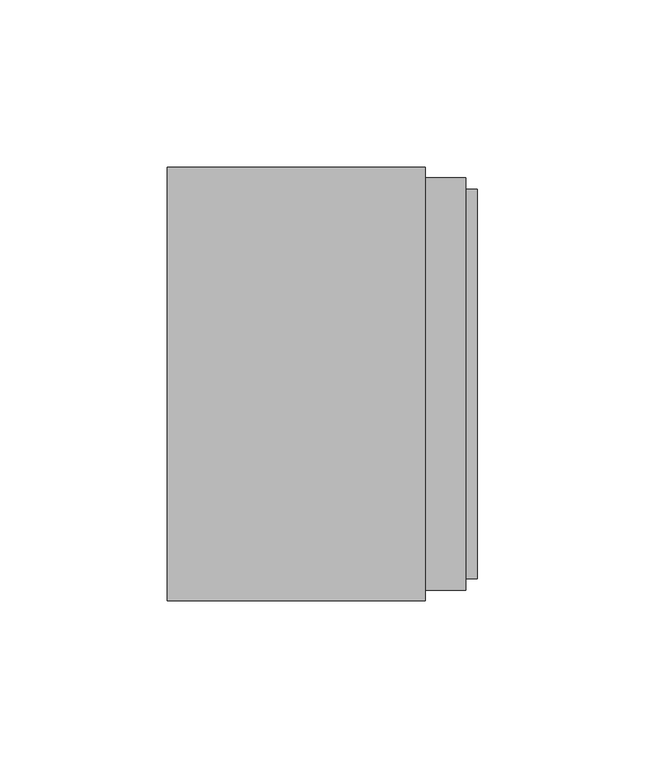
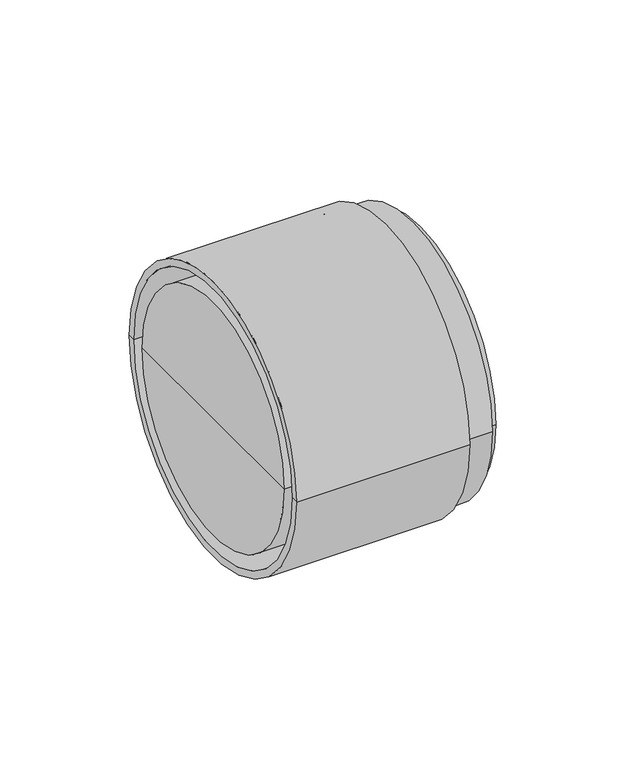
"""IFC4 building model written with IfcOpenShell, lengths in millimetres: pipe fitting geometry, pf_KGUSM : pf_KGUSM."""

import ifcopenshell
import ifcopenshell.guid

model = None  # the IFC model being written
_history = None  # IfcOwnerHistory: only IFC2X3 demands one
_inside = {}  # id of a spatial element -> (the spatial element, [elements in it])
_under = {}  # id of a project, library or spatial element -> (it, [spatial elements below it])
_declared = {}  # id of a project -> (the project, [libraries it declares])
_typed = {}  # id of a type object -> (the type object, [elements of that type])
_made_of = {}  # id of a material, layer set ... -> (it, [elements and type objects made of it])


def new_model(schema):
    """Start an empty IFC model of exactly this schema.

    Asked for "IFC4X3", IfcOpenShell would pick the latest addendum, in which some entities
    have other attributes; the version numbers below select the first issue.
    IFC2X3 requires an IfcOwnerHistory on every rooted entity: one is made here for all.
    """
    global model, _history
    if schema == "IFC4X3":
        model = ifcopenshell.file(schema_version=(4, 3, 0, 0))
    else:
        model = ifcopenshell.file(schema=schema)
    _inside.clear()
    _under.clear()
    _declared.clear()
    _typed.clear()
    _made_of.clear()
    _history = None
    if model.schema == "IFC2X3":
        org = make("IfcOrganization", Name="unknown")
        user = make(
            "IfcPersonAndOrganization",
            ThePerson=make("IfcPerson", FamilyName="unknown"),
            TheOrganization=org,
        )
        app = make(
            "IfcApplication",
            ApplicationDeveloper=org,
            Version="unknown",
            ApplicationFullName="unknown",
            ApplicationIdentifier="unknown",
        )
        _history = make(
            "IfcOwnerHistory",
            OwningUser=user,
            OwningApplication=app,
            ChangeAction="ADDED",
            CreationDate=0,
        )
    return model


def make(cls, **values):
    """One entity of the class cls with the attributes given. An attribute that is None is left unset."""
    return model.create_entity(
        cls, **{name: value for name, value in values.items() if value is not None}
    )


def rooted(cls, **values):
    """An entity with a GlobalId (a new one), such as an element, a storey or a relation."""
    return make(cls, GlobalId=ifcopenshell.guid.new(), OwnerHistory=_history, **values)


def si_unit(unit_type, name, prefix=None):
    """IfcSIUnit, for example si_unit("LENGTHUNIT", "METRE", prefix="MILLI")."""
    return make("IfcSIUnit", UnitType=unit_type, Prefix=prefix, Name=name)


def assignment(units):
    """IfcUnitAssignment: the units of a project."""
    return None if units is None else make("IfcUnitAssignment", Units=units)


def point(xyz):
    """IfcCartesianPoint."""
    return None if xyz is None else make("IfcCartesianPoint", Coordinates=xyz)


def direction(xyz):
    """IfcDirection."""
    return None if xyz is None else make("IfcDirection", DirectionRatios=xyz)


def frame(location, z_axis=None, x_axis=None):
    """IfcAxis2Placement3D, a coordinate frame: its origin and axes. An axis left out is left unset."""
    return make(
        "IfcAxis2Placement3D",
        Location=point(location),
        Axis=direction(z_axis),
        RefDirection=direction(x_axis),
    )


def origin():
    """The frame at (0, 0, 0) with its axes left unset."""
    return frame((0.0, 0.0, 0.0))


def place(relative_to, where):
    """IfcLocalPlacement: puts the frame where relative to a parent placement (None: the world)."""
    return make(
        "IfcLocalPlacement", PlacementRelTo=relative_to, RelativePlacement=where
    )


def context(
    kind, dimensions, precision=None, world=None, true_north=None, identifier=None
):
    """IfcGeometricRepresentationContext, for example the 3D "Model" context."""
    return make(
        "IfcGeometricRepresentationContext",
        ContextIdentifier=identifier,
        ContextType=kind,
        CoordinateSpaceDimension=dimensions,
        Precision=precision,
        WorldCoordinateSystem=world,
        TrueNorth=true_north,
    )


def project(units=None, contexts=None):
    """IfcProject with its units and contexts."""
    return rooted(
        "IfcProject",
        Name="project",
        RepresentationContexts=contexts,
        UnitsInContext=assignment(units),
    )


def spatial(cls, under=None, at=None, **own):
    """A site, building, storey or space (cls), placed at a placement, below another one or the project."""
    s = rooted(cls, ObjectPlacement=at, **own)
    if under is not None:
        _under.setdefault(under.id(), (under, []))[1].append(s)
    return s


def polyline(points):
    """IfcPolyline through the points."""
    return make("IfcPolyline", Points=[point(p) for p in points])


def circle_curve(where, radius):
    """IfcCircle in the frame where."""
    return make("IfcCircle", Position=where, Radius=radius)


def shape(context_of_items, identifier, shape_type, items):
    """IfcShapeRepresentation: the items that make up one representation, for example the "Body"."""
    return make(
        "IfcShapeRepresentation",
        ContextOfItems=context_of_items,
        RepresentationIdentifier=identifier,
        RepresentationType=shape_type,
        Items=items,
    )


def source(mapping_origin, context_of_items, identifier, shape_type, items):
    """IfcRepresentationMap: a shape defined once, which mapped items show again and again."""
    return make(
        "IfcRepresentationMap",
        MappingOrigin=mapping_origin,
        MappedRepresentation=shape(context_of_items, identifier, shape_type, items),
    )


def transform(
    local_origin,
    x_axis=None,
    y_axis=None,
    z_axis=None,
    scale=None,
    scale2=None,
    scale3=None,
    uniform=True,
):
    """IfcCartesianTransformationOperator3D, or its non-uniform kind. x_axis, y_axis, z_axis: its Axis1, 2, 3."""
    if uniform:
        return make(
            "IfcCartesianTransformationOperator3D",
            Axis1=direction(x_axis),
            Axis2=direction(y_axis),
            LocalOrigin=point(local_origin),
            Scale=scale,
            Axis3=direction(z_axis),
        )
    return make(
        "IfcCartesianTransformationOperator3DnonUniform",
        Axis1=direction(x_axis),
        Axis2=direction(y_axis),
        LocalOrigin=point(local_origin),
        Scale=scale,
        Axis3=direction(z_axis),
        Scale2=scale2,
        Scale3=scale3,
    )


def mapped(mapping_source, mapping_target):
    """IfcMappedItem: shows the shape of a source again, moved by a transform."""
    return make(
        "IfcMappedItem", MappingSource=mapping_source, MappingTarget=mapping_target
    )


def made_of(thing, what):
    """Note that an element or type object is made of a material, layer set ...; save() writes the relation."""
    if what is not None:
        _made_of.setdefault(what.id(), (what, []))[1].append(thing)
    return thing


def element(
    cls,
    number,
    at=None,
    inside=None,
    cuts=None,
    type_object=None,
    material=None,
    context=None,
    identifier="Body",
    shape_type=None,
    held_by="IfcProductDefinitionShape",
    body=None,
    shapes=None,
    **own,
):
    """One element of the class cls, such as IfcWall. Its Tag is "e" and its number.

    at: its placement. inside: the storey or other place that contains it. cuts: it is an
    opening in that element (IfcRelVoidsElement). A single representation is given by context,
    identifier, shape_type and body (its items); several are given by shapes. held_by: the class
    of the entity that holds the representations. save() writes the other relations.
    """
    e = rooted(cls, Tag="e%d" % number, ObjectPlacement=at, **own)
    if body is not None:
        shapes = [shape(context, identifier, shape_type, body)]
    if shapes is not None:
        e.Representation = make(held_by, Representations=shapes)
    if inside is not None:
        _inside.setdefault(inside.id(), (inside, []))[1].append(e)
    if cuts is not None:
        rooted(
            "IfcRelVoidsElement", RelatingBuildingElement=cuts, RelatedOpeningElement=e
        )
    if type_object is not None:
        _typed.setdefault(type_object.id(), (type_object, []))[1].append(e)
    return made_of(e, material)


def aggregate(whole, parts):
    """IfcRelAggregates: a whole, such as a stair, and the parts it consists of."""
    return rooted("IfcRelAggregates", RelatingObject=whole, RelatedObjects=parts)


def save(model, path):
    """Write the relations noted so far, then the file.

    IfcRelAggregates (storeys below a building ...), IfcRelContainedInSpatialStructure (elements
    in a storey), IfcRelDefinesByType, IfcRelAssociatesMaterial and IfcRelDeclares: one each for
    every whole, place, type object, material and project.
    """
    for whole, parts in _under.values():
        aggregate(whole, parts)
    for where, things in _inside.values():
        rooted(
            "IfcRelContainedInSpatialStructure",
            RelatedElements=things,
            RelatingStructure=where,
        )
    for kind, things in _typed.values():
        rooted("IfcRelDefinesByType", RelatedObjects=things, RelatingType=kind)
    for what, things in _made_of.values():
        rooted("IfcRelAssociatesMaterial", RelatedObjects=things, RelatingMaterial=what)
    for by, libraries in _declared.values():
        rooted("IfcRelDeclares", RelatingContext=by, RelatedDefinitions=libraries)
    model.write(path)


def plane_surface(at):
    """IfcPlane: the flat surface through the origin of the frame at, square to its z axis."""
    return make("IfcPlane", Position=at)


def cylinder_surface(at, radius):
    """IfcCylindricalSurface: all points at the distance radius from the z axis of the frame at."""
    return make("IfcCylindricalSurface", Position=at, Radius=radius)


def revolved_surface(curve, axis_point, axis_direction):
    """IfcSurfaceOfRevolution: the curve turned about the line through axis_point along axis_direction."""
    return make(
        "IfcSurfaceOfRevolution",
        SweptCurve=make("IfcArbitraryOpenProfileDef", ProfileType="CURVE", Curve=curve),
        AxisPosition=make("IfcAxis1Placement", Location=point(axis_point), Axis=direction(axis_direction)),
    )


def advanced_brep(points, edges, surfaces, faces):
    """IfcAdvancedBrep: a solid bounded by faces that lie on surfaces and meet in shared edges.

    An edge is (start, end): straight between two places in points (the first is 0);
    or (start, end, curve); or (start, end, curve, False) where it runs against its curve.
    A face is (place in surfaces, loops), or (place, loops, False) where it looks against
    its surface's normal. A loop lists edges by number (the first is 1), with a minus sign
    where the edge is run from its end to its start. The first loop is the outer one.
    """
    corners = [point(p) for p in points]
    vertices = [make("IfcVertexPoint", VertexGeometry=c) for c in corners]
    made = []
    for start, end, *more in edges:
        made.append(
            make(
                "IfcEdgeCurve",
                EdgeStart=vertices[start],
                EdgeEnd=vertices[end],
                EdgeGeometry=more[0] if more else make("IfcPolyline", Points=[corners[start], corners[end]]),
                SameSense=more[1] if len(more) > 1 else True,
            )
        )
    hull = []
    for where, loops, *sense in faces:
        bounds = []
        for j, loop in enumerate(loops):
            ring = [make("IfcOrientedEdge", EdgeElement=made[abs(k) - 1], Orientation=k > 0) for k in loop]
            bounds.append(
                make(
                    "IfcFaceOuterBound" if j == 0 else "IfcFaceBound",
                    Bound=make("IfcEdgeLoop", EdgeList=ring),
                    Orientation=True,
                )
            )
        hull.append(make("IfcAdvancedFace", Bounds=bounds, FaceSurface=surfaces[where], SameSense=sense[0] if sense else True))
    return make("IfcAdvancedBrep", Outer=make("IfcClosedShell", CfsFaces=hull))


def pipe_fitting_066d6869(model_context):
    return source(origin(), model_context, "Body", "AdvancedBrep", [
        advanced_brep(
        [(-1.75, 0.0, 0.0), (-1.75, 55.0, 0.0), (-1.75, -55.0, 0.0), (90.95, -58.2, 0.0), (90.95, 58.2, 0.0), (90.95, 55.0, 0.0), (90.95, -55.0, 0.0), (87.45, -58.2, 0.0), (87.45, 58.2, 0.0), (87.45, -61.6, 0.0), (87.45, 61.6, 0.0), (75.45, -61.6, 0.0), (75.45, 61.6, 0.0), (46.45, -55.0, 0.0), (46.45, 55.0, 0.0), (46.45, 0.0, 0.0), (75.45, -64.8, 0.0), (75.45, 64.8, 0.0), (-1.75, -64.8, 0.0), (-1.75, 64.8, 0.0), (-1.75, -61.6, 0.0), (-1.75, 61.6, 0.0), (68.0131579, -61.6, 0.0), (68.0131579, 61.6, 0.0), (68.0131579, -58.2, 0.0), (68.0131579, 58.2, 0.0), (46.45, -58.2, 0.0), (46.45, 58.2, 0.0), (37.95, -55.0, 0.0), (37.95, 55.0, 0.0)],
        [
            (0, 1),
            (1, 2, circle_curve(frame((-1.75, 0.0, 0.0), z_axis=(-1.0, 0.0, 0.0), x_axis=(0.0, 1.0, 0.0)), 55.0)),
            (2, 0),
            (2, 1, circle_curve(frame((-1.75, 0.0, 0.0), z_axis=(-1.0, 0.0, 0.0), x_axis=(0.0, 1.0, 0.0)), 55.0)),
            (3, 4, circle_curve(frame((90.95, 0.0, 0.0), z_axis=(1.0, 0.0, 0.0), x_axis=(0.0, 1.0, 0.0)), 58.2)),
            (4, 5),
            (5, 6, circle_curve(frame((90.95, 0.0, 0.0), z_axis=(-1.0, 0.0, 0.0), x_axis=(0.0, 1.0, 0.0)), 55.0)),
            (6, 3),
            (4, 3, circle_curve(frame((90.95, 0.0, 0.0), z_axis=(1.0, 0.0, 0.0), x_axis=(0.0, 1.0, 0.0)), 58.2)),
            (6, 5, circle_curve(frame((90.95, 0.0, 0.0), z_axis=(-1.0, 0.0, 0.0), x_axis=(0.0, 1.0, 0.0)), 55.0)),
            (7, 8, circle_curve(frame((87.45, 0.0, 0.0), z_axis=(1.0, 0.0, 0.0), x_axis=(0.0, 1.0, 0.0)), 58.2)),
            (8, 4),
            (3, 7),
            (8, 7, circle_curve(frame((87.45, 0.0, 0.0), z_axis=(1.0, 0.0, 0.0), x_axis=(0.0, 1.0, 0.0)), 58.2)),
            (9, 10, circle_curve(frame((87.45, 0.0, 0.0), z_axis=(1.0, 0.0, 0.0), x_axis=(0.0, 1.0, 0.0)), 61.6)),
            (10, 8),
            (7, 9),
            (10, 9, circle_curve(frame((87.45, 0.0, 0.0), z_axis=(1.0, 0.0, 0.0), x_axis=(0.0, 1.0, 0.0)), 61.6)),
            (11, 12, circle_curve(frame((75.45, 0.0, 0.0), z_axis=(1.0, 0.0, 0.0), x_axis=(0.0, 1.0, 0.0)), 61.6)),
            (12, 10),
            (9, 11),
            (12, 11, circle_curve(frame((75.45, 0.0, 0.0), z_axis=(1.0, 0.0, 0.0), x_axis=(0.0, 1.0, 0.0)), 61.6)),
            (13, 14, circle_curve(frame((46.45, 0.0, 0.0), z_axis=(1.0, 0.0, 0.0), x_axis=(0.0, 1.0, 0.0)), 55.0)),
            (14, 15),
            (15, 13),
            (14, 13, circle_curve(frame((46.45, 0.0, 0.0), z_axis=(1.0, 0.0, 0.0), x_axis=(0.0, 1.0, 0.0)), 55.0)),
            (5, 14),
            (13, 6),
            (16, 17, circle_curve(frame((75.45, 0.0, 0.0), z_axis=(1.0, 0.0, 0.0), x_axis=(0.0, 1.0, 0.0)), 64.8)),
            (17, 12),
            (11, 16),
            (17, 16, circle_curve(frame((75.45, 0.0, 0.0), z_axis=(1.0, 0.0, 0.0), x_axis=(0.0, 1.0, 0.0)), 64.8)),
            (18, 19, circle_curve(frame((-1.75, 0.0, 0.0), z_axis=(1.0, 0.0, 0.0), x_axis=(0.0, 1.0, 0.0)), 64.8)),
            (19, 17),
            (16, 18),
            (19, 18, circle_curve(frame((-1.75, 0.0, 0.0), z_axis=(1.0, 0.0, 0.0), x_axis=(0.0, 1.0, 0.0)), 64.8)),
            (20, 21, circle_curve(frame((-1.75, 0.0, 0.0), z_axis=(1.0, 0.0, 0.0), x_axis=(0.0, 1.0, 0.0)), 61.6)),
            (21, 19),
            (18, 20),
            (21, 20, circle_curve(frame((-1.75, 0.0, 0.0), z_axis=(1.0, 0.0, 0.0), x_axis=(0.0, 1.0, 0.0)), 61.6)),
            (22, 23, circle_curve(frame((68.0131579, 0.0, 0.0), z_axis=(1.0, 0.0, 0.0), x_axis=(0.0, 1.0, 0.0)), 61.6)),
            (23, 21),
            (20, 22),
            (23, 22, circle_curve(frame((68.0131579, 0.0, 0.0), z_axis=(1.0, 0.0, 0.0), x_axis=(0.0, 1.0, 0.0)), 61.6)),
            (24, 25, circle_curve(frame((68.0131579, 0.0, 0.0), z_axis=(1.0, 0.0, 0.0), x_axis=(0.0, 1.0, 0.0)), 58.2)),
            (25, 23),
            (22, 24),
            (25, 24, circle_curve(frame((68.0131579, 0.0, 0.0), z_axis=(1.0, 0.0, 0.0), x_axis=(0.0, 1.0, 0.0)), 58.2)),
            (26, 27, circle_curve(frame((46.45, 0.0, 0.0), z_axis=(1.0, 0.0, 0.0), x_axis=(0.0, 1.0, 0.0)), 58.2)),
            (27, 25),
            (24, 26),
            (27, 26, circle_curve(frame((46.45, 0.0, 0.0), z_axis=(1.0, 0.0, 0.0), x_axis=(0.0, 1.0, 0.0)), 58.2)),
            (28, 29, circle_curve(frame((37.95, 0.0, 0.0), z_axis=(1.0, 0.0, 0.0), x_axis=(0.0, 1.0, 0.0)), 55.0)),
            (29, 27),
            (26, 28),
            (29, 28, circle_curve(frame((37.95, 0.0, 0.0), z_axis=(1.0, 0.0, 0.0), x_axis=(0.0, 1.0, 0.0)), 55.0)),
            (1, 29),
            (28, 2),
        ],
        [
            plane_surface(frame((-1.75, 0.0, 0.0), z_axis=(-1.0, 0.0, 0.0), x_axis=(0.0, 1.0, 0.0))),
            plane_surface(frame((90.95, 0.0, 0.0), z_axis=(1.0, 0.0, 0.0), x_axis=(0.0, 1.0, 0.0))),
            cylinder_surface(frame((-1.75, 0.0, 0.0), z_axis=(-1.0, 0.0, 0.0), x_axis=(0.0, 1.0, 0.0)), 58.2),
            plane_surface(frame((87.45, 0.0, 0.0), z_axis=(1.0, 0.0, 0.0), x_axis=(0.0, 1.0, 0.0))),
            cylinder_surface(frame((-1.75, 0.0, 0.0), z_axis=(-1.0, 0.0, 0.0), x_axis=(0.0, 1.0, 0.0)), 61.6),
            plane_surface(frame((46.45, 0.0, 0.0), z_axis=(1.0, 0.0, 0.0), x_axis=(0.0, 1.0, 0.0))),
            revolved_surface(polyline([(46.45, 55.0, 0.0), (90.95, 55.0, 0.0)]), (-1.75, 0.0, 0.0), (-1.0, 0.0, 0.0)),
            plane_surface(frame((75.45, 0.0, 0.0), z_axis=(1.0, 0.0, 0.0), x_axis=(0.0, 1.0, 0.0))),
            cylinder_surface(frame((-1.75, 0.0, 0.0), z_axis=(-1.0, 0.0, 0.0), x_axis=(0.0, 1.0, 0.0)), 64.8),
            revolved_surface(polyline([(-1.75, 61.6, 0.0), (68.0131579, 61.6, 0.0)]), (-1.75, 0.0, 0.0), (-1.0, 0.0, 0.0)),
            plane_surface(frame((68.0131579, 0.0, 0.0), z_axis=(-1.0, 0.0, 0.0), x_axis=(0.0, 1.0, 0.0))),
            revolved_surface(polyline([(46.45, 58.2, 0.0), (37.95, 55.0, 0.0)]), (-1.75, 0.0, 0.0), (-1.0, 0.0, 0.0)),
            cylinder_surface(frame((-1.75, 0.0, 0.0), z_axis=(-1.0, 0.0, 0.0), x_axis=(0.0, 1.0, 0.0)), 55.0),
        ],
        [
            (0, [[1, 2, 3]]),
            (0, [[-3, 4, -1]]),
            (1, [[5, 6, 7, 8]]),
            (1, [[9, -8, 10, -6]]),
            (2, [[11, 12, -5, 13]]),
            (2, [[14, -13, -9, -12]]),
            (3, [[15, 16, -11, 17]]),
            (3, [[18, -17, -14, -16]]),
            (4, [[19, 20, -15, 21]]),
            (4, [[22, -21, -18, -20]]),
            (5, [[23, 24, 25]]),
            (5, [[26, -25, -24]]),
            (6, [[-7, 27, -23, 28]]),
            (6, [[-10, -28, -26, -27]]),
            (7, [[29, 30, -19, 31]]),
            (7, [[32, -31, -22, -30]]),
            (8, [[33, 34, -29, 35]]),
            (8, [[36, -35, -32, -34]]),
            (0, [[37, 38, -33, 39]]),
            (0, [[40, -39, -36, -38]]),
            (9, [[41, 42, -37, 43]]),
            (9, [[44, -43, -40, -42]]),
            (10, [[45, 46, -41, 47]]),
            (10, [[48, -47, -44, -46]]),
            (2, [[49, 50, -45, 51]]),
            (2, [[52, -51, -48, -50]]),
            (11, [[53, 54, -49, 55]]),
            (11, [[56, -55, -52, -54]]),
            (12, [[-2, 57, -53, 58]]),
            (12, [[-4, -58, -56, -57]]),
        ],
    ),
    ])


if __name__ == "__main__":
    model = new_model("IFC4")
    model_context = context("Model", 3, world=origin())
    ifc_project = project(units=[si_unit("LENGTHUNIT", "METRE", prefix="MILLI")], contexts=[model_context])
    site = spatial("IfcSite", under=ifc_project)
    building = spatial("IfcBuilding", under=site)
    placement = place(None, origin())
    pipe_fitting_shape = pipe_fitting_066d6869(model_context)
    element("IfcPipeFitting", 1, ObjectType="pf_KGUSM : pf_KGUSM", at=placement, inside=building, context=model_context, shape_type="MappedRepresentation", body=[
        mapped(pipe_fitting_shape, transform((0.0, 0.0, 0.0), x_axis=(1.0, 0.0, 0.0), y_axis=(0.0, 1.0, 0.0), z_axis=(0.0, 0.0, 1.0))),
    ])
    save(model, "model.ifc")
